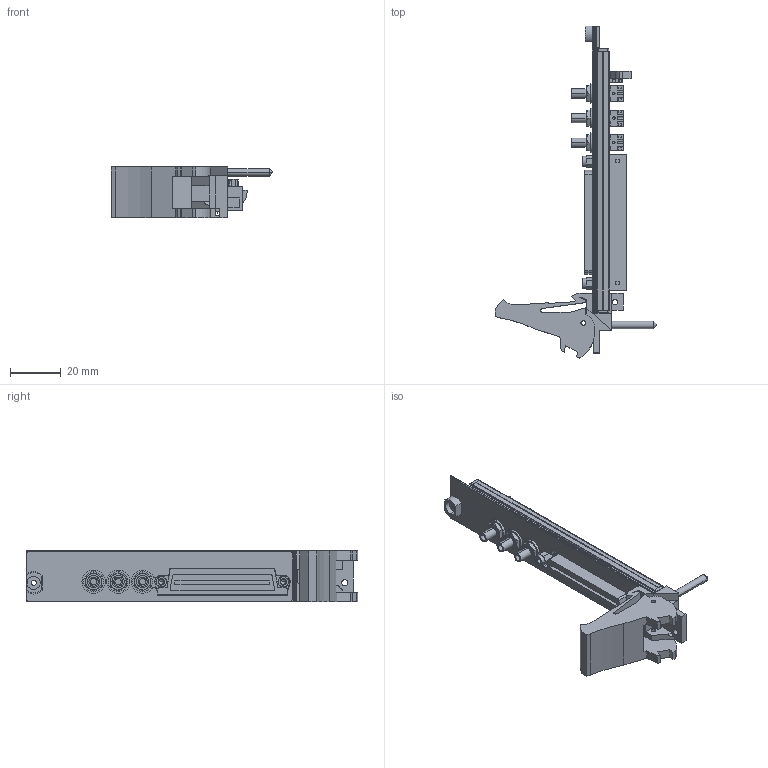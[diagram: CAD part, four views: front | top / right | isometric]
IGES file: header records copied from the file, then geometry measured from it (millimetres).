
Start section:  PTC IGES file: cu_pxi-6562.igs
Global section: file name: cu_pxi-6562.igs; native system: Pro/ENGINEER by Parametric Technology Corporation; preprocessor: 2006080; author: lmcdanie; organization: Unknown; date: 070810.134141; units: inch
Bounding box: 63.53 x 130.62 x 20.31 mm (x, y, z)
Surface area: 21048 mm2 (no closed solid volume)
Topology: 0 solids, 0 shells, 662 faces, 3432 edges, 3424 vertices
Faces by surface type: bspline 445, revolution 217
